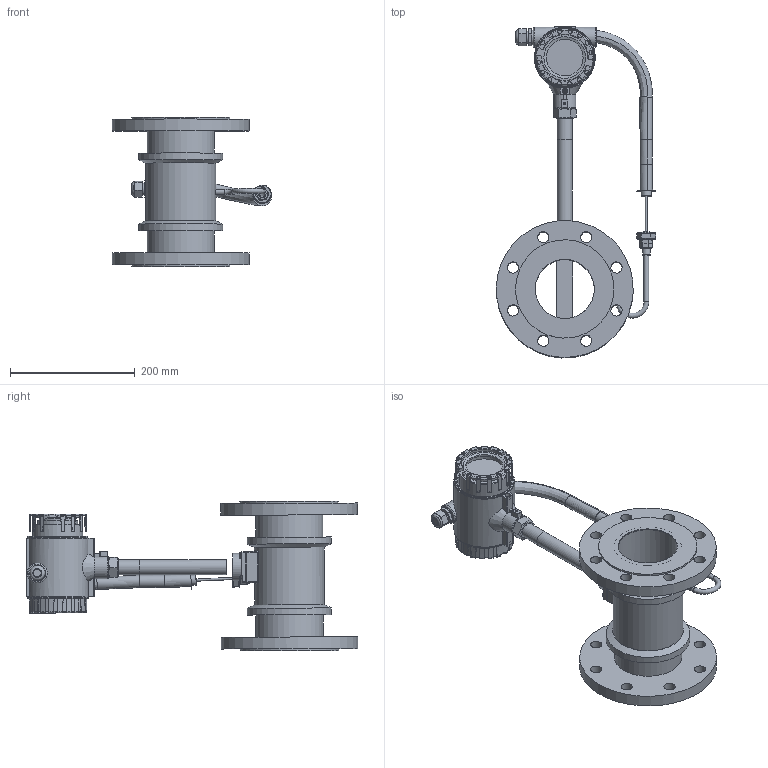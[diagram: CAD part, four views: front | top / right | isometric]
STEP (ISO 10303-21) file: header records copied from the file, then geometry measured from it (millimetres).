
FILE_DESCRIPTION(/* description */ ('STEP AP214'),/* implementation_level */ '2;1');
FILE_NAME(/* name */ 'DN100 vortex.step',/* time_stamp */ '2025-09-05T12:37:48+03:00',/* author */ (''),/* organization */ (''),/* preprocessor_version */ 'ST-DEVELOPER v20.1',/* originating_system */ 'Autodesk Translation Framework v14.10.0.0',/* authorisation */ '');
FILE_SCHEMA (('AUTOMOTIVE_DESIGN { 1 0 10303 214 3 1 1 }'));
Length unit declared in the file: millimetre
Products named in the file (1): DN100法兰连接装配体
Bounding box: 255.89 x 533.05 x 240.4 mm (x, y, z)
Volume: 2553508.3 mm3; surface area: 627805.9 mm2
Topology: 23 solids, 24 shells, 898 faces, 2212 edges, 1396 vertices
Faces by surface type: plane 509, cylinder 247, torus 61, cone 53, bspline 24, sphere 4
Full cylindrical faces by diameter (mm): 3.2 x1, 3.3 x1, 3.65 x2, 4.2 x10, 6 x13, 8 x3, 8.7 x2, 9 x1, 10 x1, 12 x1, 12.4 x1, 13 x1, 14 x1, 16 x2, 17.727 x4, 18 x21, 19 x7, 19.2 x2, 20 x1, 20.6 x1, 20.655 x1, 22.6 x1, 24 x2, 24.2 x1, 28 x2, 31.9 x2, 38 x1, 44 x1, 59 x1, 64 x1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
Entity records: 30681 total; most frequent: CARTESIAN_POINT 8858, DIRECTION 4763, ORIENTED_EDGE 4394, EDGE_CURVE 2197, AXIS2_PLACEMENT_3D 1809, VERTEX_POINT 1396, LINE 1145, VECTOR 1145
